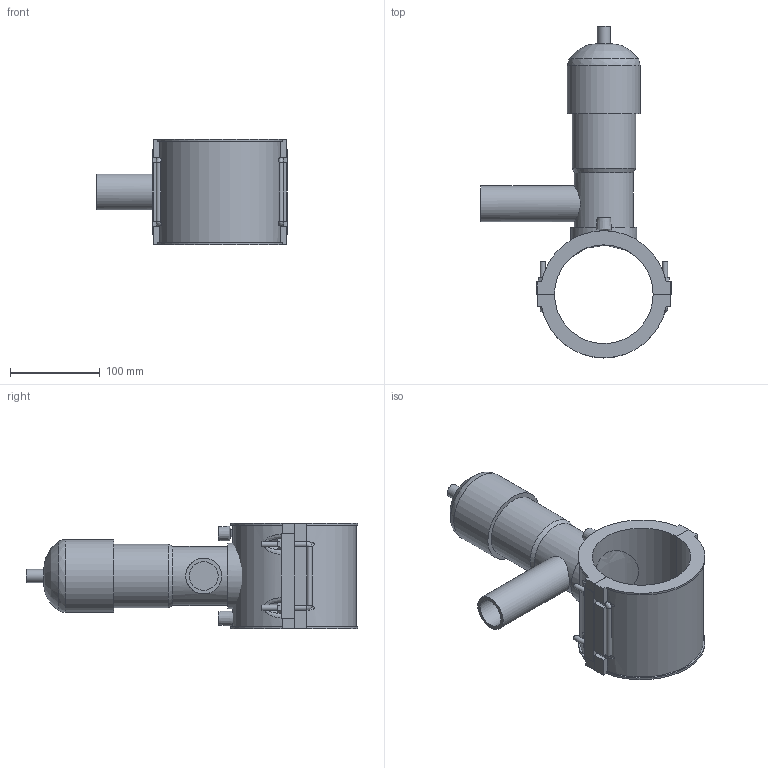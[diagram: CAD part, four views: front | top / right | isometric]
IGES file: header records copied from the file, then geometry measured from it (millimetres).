
Global section: file name: 495404110040.ipt; native system: Autodesk Inventor 2015; preprocessor: unknown; author: KIM; date: 20171106.094247; units: millimetre
Bounding box: 212 x 369.81 x 118 mm (x, y, z)
Volume: 1633887.5 mm3; surface area: 215094.4 mm2
Topology: 3 solids, 5 shells, 157 faces, 388 edges, 246 vertices
Faces by surface type: plane 93, cylinder 29, revolution 16, bspline 12, cone 7
Full cylindrical faces by diameter (mm): 4 x2, 6 x8, 14.64 x1, 40 x1, 65.88 x1, 70.76 x1, 73.2 x1, 81.333 x1
